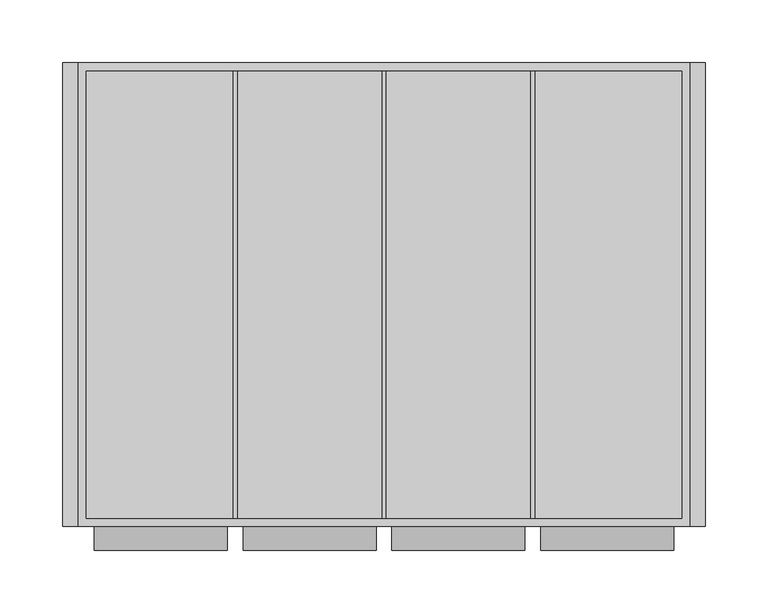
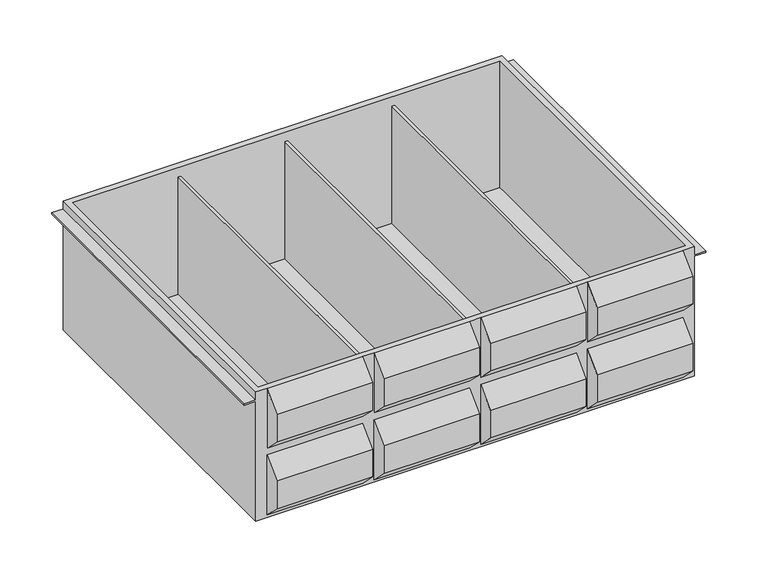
"""IFC4 building model written with IfcOpenShell, lengths in millimetres: furniture geometry, HermanMiller_CoStruc_CO565_Cassette Assembly : 6H x 15D x 20W."""

from ifc_helpers import new_model, si_unit, origin, place, context, project, spatial, faceted_brep, source, transform, mapped, element, save


def furniture_6a29f4cb(model_context):
    return source(origin(), model_context, "Body", "Brep", [
        faceted_brep([(-238.125, -176.2125, 1535.0109), (-250.825, -176.2125, 1535.0109), (-250.825, -176.2125, 1525.4986), (-263.525, -176.2125, 1525.4986), (-263.525, -176.2125, 1523.9111), (-250.825, -176.2125, 1523.9111), (-250.825, -176.2125, 1382.6109), (238.125, -176.2125, 1382.6109), (238.125, -176.2125, 1523.9111), (250.825, -176.2125, 1523.9111), (250.825, -176.2125, 1525.4986), (238.125, -176.2125, 1525.4986), (238.125, -176.2125, 1535.0109), (225.425, -176.2125, 1535.0109), (225.425, -176.2125, 1464.4226237), (119.0625, -176.2125, 1464.4226237), (119.0625, -176.2125, 1535.0109), (106.3625, -176.2125, 1535.0109), (106.3625, -176.2125, 1464.4226237), (0.0, -176.2125, 1464.4226237), (0.0, -176.2125, 1535.0109), (-12.7, -176.2125, 1535.0109), (-12.7, -176.2125, 1464.4226237), (-119.0625, -176.2125, 1464.4226237), (-119.0625, -176.2125, 1535.0109), (-131.7625, -176.2125, 1535.0109), (-131.7625, -176.2125, 1464.4226237), (-238.125, -176.2125, 1464.4226237), (-131.7625, -176.2125, 1456.2253481), (-131.7625, -176.2125, 1385.6370719), (-238.125, -176.2125, 1385.6370719), (-238.125, -176.2125, 1456.2253481), (-119.0625, -176.2125, 1385.6370719), (-119.0625, -176.2125, 1456.2253481), (-12.7, -176.2125, 1456.2253481), (-12.7, -176.2125, 1385.6370719), (106.3625, -176.2125, 1456.2253481), (106.3625, -176.2125, 1385.6370719), (0.0, -176.2125, 1385.6370719), (0.0, -176.2125, 1456.2253481), (119.0625, -176.2125, 1385.6370719), (119.0625, -176.2125, 1456.2253481), (225.425, -176.2125, 1456.2253481), (225.425, -176.2125, 1385.6370719), (-250.825, 195.2625, 1535.0109), (238.125, 195.2625, 1535.0109), (238.125, 195.2625, 1525.4986), (250.825, 195.2625, 1525.4986), (250.825, 195.2625, 1523.9111), (238.125, 195.2625, 1523.9111), (238.125, 195.2625, 1382.6109), (-250.825, 195.2625, 1382.6109), (-250.825, 195.2625, 1523.9111), (-263.525, 195.2625, 1523.9111), (-263.525, 195.2625, 1525.4986), (-250.825, 195.2625, 1525.4986), (231.775, -169.8625, 1535.0109), (-244.475, -169.8625, 1535.0109), (-244.475, 188.2775, 1535.0109), (231.775, 188.2775, 1535.0109), (-131.7625, -195.2625, 1404.6870719), (-131.7625, -195.2625, 1437.1753481), (-131.7625, -195.2625, 1515.9609), (-131.7625, -195.2625, 1483.4726237), (-238.125, -195.2625, 1404.6870719), (-238.125, -195.2625, 1437.1753481), (-238.125, -195.2625, 1483.4726237), (-238.125, -195.2625, 1515.9609), (231.775, -169.8625, 1385.6370719), (231.775, 188.2775, 1385.6370719), (114.3, 188.2775, 1385.6370719), (114.3, -169.8625, 1385.6370719), (-244.475, 188.2775, 1385.6370719), (-244.475, -169.8625, 1385.6370719), (-127.0, -169.8625, 1385.6370719), (-127.0, 188.2775, 1385.6370719), (-4.7625, -169.8625, 1385.6370719), (111.125, -169.8625, 1385.6370719), (111.125, 188.2775, 1385.6370719), (-4.7625, 188.2775, 1385.6370719), (-123.825, -169.8625, 1385.6370719), (-7.9375, -169.8625, 1385.6370719), (-7.9375, 188.2775, 1385.6370719), (-123.825, 188.2775, 1385.6370719), (114.3, -169.8625, 1523.9111), (111.125, -169.8625, 1523.9111), (-4.7625, -169.8625, 1523.9111), (-7.9375, -169.8625, 1523.9111), (-123.825, -169.8625, 1523.9111), (-127.0, -169.8625, 1523.9111), (-127.0, 188.2775, 1523.9111), (-123.825, 188.2775, 1523.9111), (-7.9375, 188.2775, 1523.9111), (-4.7625, 188.2775, 1523.9111), (111.125, 188.2775, 1523.9111), (114.3, 188.2775, 1523.9111), (-119.0625, -195.2625, 1404.6870719), (-119.0625, -195.2625, 1437.1753481), (-119.0625, -195.2625, 1483.4726237), (-119.0625, -195.2625, 1515.9609), (-12.7, -195.2625, 1404.6870719), (-12.7, -195.2625, 1437.1753481), (-12.7, -195.2625, 1515.9609), (-12.7, -195.2625, 1483.4726237), (106.3625, -195.2625, 1404.6870719), (106.3625, -195.2625, 1437.1753481), (106.3625, -195.2625, 1515.9609), (106.3625, -195.2625, 1483.4726237), (0.0, -195.2625, 1404.6870719), (0.0, -195.2625, 1437.1753481), (0.0, -195.2625, 1483.4726237), (0.0, -195.2625, 1515.9609), (119.0625, -195.2625, 1404.6870719), (119.0625, -195.2625, 1437.1753481), (119.0625, -195.2625, 1483.4726237), (119.0625, -195.2625, 1515.9609), (225.425, -195.2625, 1404.6870719), (225.425, -195.2625, 1437.1753481), (225.425, -195.2625, 1515.9609), (225.425, -195.2625, 1483.4726237)], [[[0, 1, 2, 3, 4, 5, 6, 7, 8, 9, 10, 11, 12, 13, 14, 15, 16, 17, 18, 19, 20, 21, 22, 23, 24, 25, 26, 27], [28, 29, 30, 31], [32, 33, 34, 35], [36, 37, 38, 39], [40, 41, 42, 43]], [[44, 45, 46, 47, 48, 49, 50, 51, 52, 53, 54, 55]], [[51, 50, 7, 6]], [[7, 50, 49, 8]], [[45, 12, 11, 46]], [[45, 44, 1, 0, 25, 24, 21, 20, 17, 16, 13, 12], [56, 57, 58, 59]], [[51, 6, 5, 52]], [[1, 44, 55, 2]], [[60, 29, 28, 61]], [[25, 62, 63, 26]], [[64, 65, 31, 30]], [[27, 66, 67, 0]], [[29, 60, 64, 30]], [[62, 25, 0, 67]], [[63, 62, 67, 66]], [[26, 63, 66, 27]], [[61, 28, 31, 65]], [[60, 61, 65, 64]], [[68, 69, 70, 71]], [[72, 73, 74, 75]], [[76, 77, 78, 79]], [[80, 81, 82, 83]], [[56, 68, 71, 84, 85, 77, 76, 86, 87, 81, 80, 88, 89, 74, 73, 57]], [[69, 68, 56, 59]], [[69, 59, 58, 72, 75, 90, 91, 83, 82, 92, 93, 79, 78, 94, 95, 70]], [[73, 72, 58, 57]], [[96, 97, 33, 32]], [[23, 98, 99, 24]], [[100, 35, 34, 101]], [[21, 102, 103, 22]], [[97, 96, 100, 101]], [[33, 97, 101, 34]], [[98, 23, 22, 103]], [[99, 98, 103, 102]], [[24, 99, 102, 21]], [[96, 32, 35, 100]], [[104, 37, 36, 105]], [[17, 106, 107, 18]], [[108, 109, 39, 38]], [[19, 110, 111, 20]], [[37, 104, 108, 38]], [[106, 17, 20, 111]], [[107, 106, 111, 110]], [[18, 107, 110, 19]], [[105, 36, 39, 109]], [[104, 105, 109, 108]], [[112, 113, 41, 40]], [[15, 114, 115, 16]], [[116, 43, 42, 117]], [[13, 118, 119, 14]], [[113, 112, 116, 117]], [[41, 113, 117, 42]], [[114, 15, 14, 119]], [[115, 114, 119, 118]], [[16, 115, 118, 13]], [[112, 40, 43, 116]], [[54, 53, 4, 3]], [[55, 54, 3, 2]], [[53, 52, 5, 4]], [[49, 48, 9, 8]], [[47, 46, 11, 10]], [[48, 47, 10, 9]], [[88, 91, 90, 89]], [[84, 95, 94, 85]], [[86, 93, 92, 87]], [[91, 88, 80, 83]], [[89, 90, 75, 74]], [[95, 84, 71, 70]], [[85, 94, 78, 77]], [[93, 86, 76, 79]], [[87, 92, 82, 81]]]),
    ])


if __name__ == "__main__":
    model = new_model("IFC4")
    model_context = context("Model", 3, world=origin())
    ifc_project = project(units=[si_unit("LENGTHUNIT", "METRE", prefix="MILLI")], contexts=[model_context])
    site = spatial("IfcSite", under=ifc_project)
    building = spatial("IfcBuilding", under=site)
    placement = place(None, origin())
    furniture_shape = furniture_6a29f4cb(model_context)
    element("IfcFurniture", 1, ObjectType="HermanMiller_CoStruc_CO565_Cassette Assembly : 6H x 15D x 20W", at=placement, inside=building, context=model_context, shape_type="MappedRepresentation", body=[
        mapped(furniture_shape, transform((0.0, 0.0, 0.0), x_axis=(1.0, 0.0, 0.0), y_axis=(0.0, 1.0, 0.0), z_axis=(0.0, 0.0, 1.0))),
    ])
    save(model, "model.ifc")
